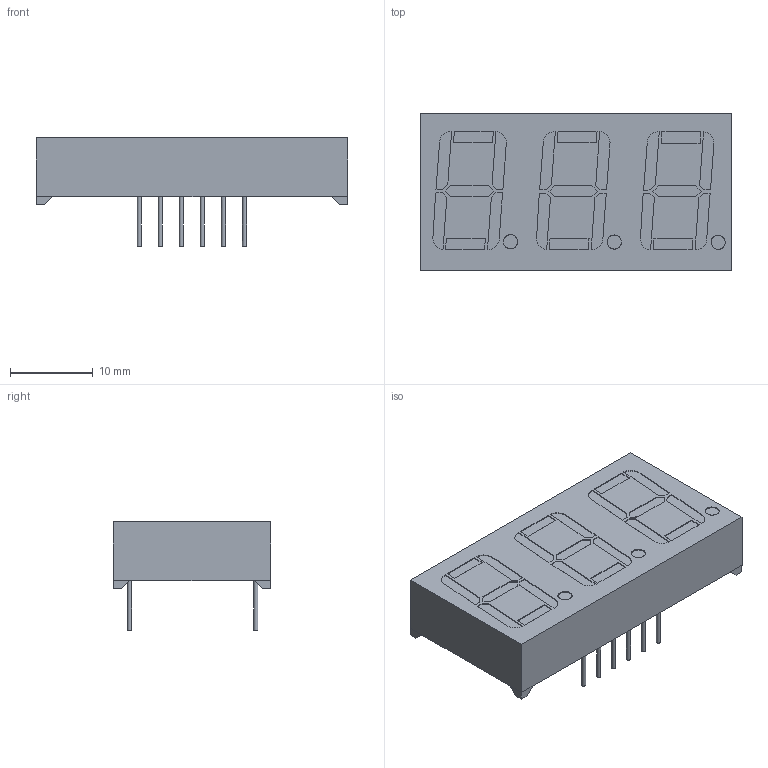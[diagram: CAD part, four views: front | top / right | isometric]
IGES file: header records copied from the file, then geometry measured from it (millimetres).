
Global section: file name: Filename.iges; native system: Open CASCADE 7.3; preprocessor: Open CASCADE IGES processor 7.3; date: 20210819.094459; units: millimetre
Bounding box: 37.6 x 19 x 13.1 mm (x, y, z)
Surface area: 2414.4 mm2 (no closed solid volume)
Topology: 0 solids, 0 shells, 227 faces, 1014 edges, 984 vertices
Faces by surface type: plane 200, revolution 27
